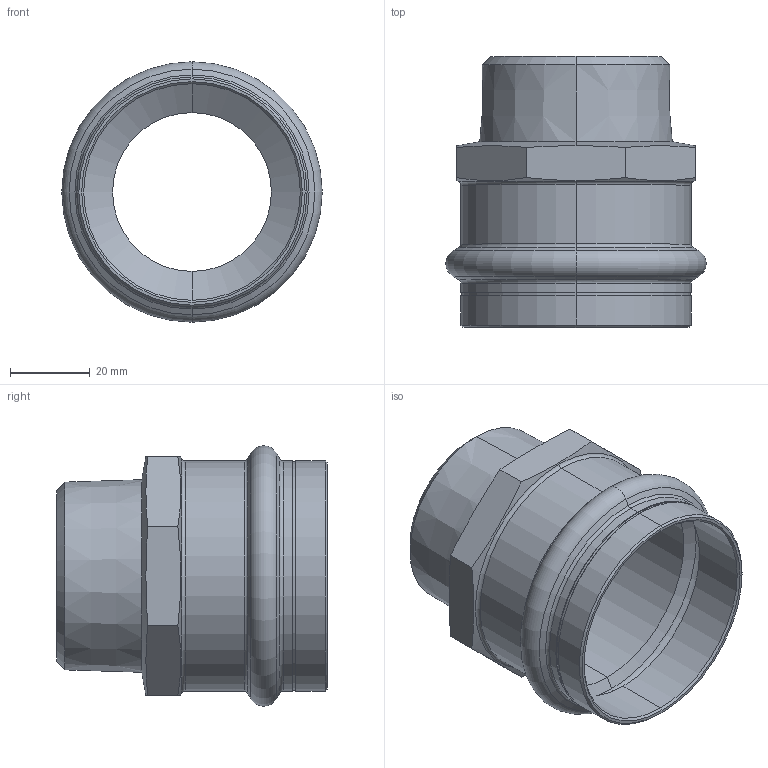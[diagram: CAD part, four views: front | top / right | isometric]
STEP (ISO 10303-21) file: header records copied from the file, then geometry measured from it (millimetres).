
FILE_DESCRIPTION (( 'STEP AP203' ), '1' );
FILE_NAME ('SP4243G Ø54 1 1-2.STEP', '2017-04-26T07:56:23', ( '' ), ( '' ), 'SwSTEP 2.0', 'SolidWorks 2016', '' );
FILE_SCHEMA (( 'CONFIG_CONTROL_DESIGN' ));
Length unit declared in the file: millimetre
Products named in the file (1): SP4243G Ø54 1 1-2
Bounding box: 65.4 x 68 x 65.4 mm (x, y, z)
Volume: 33328.1 mm3; surface area: 26432.8 mm2
Topology: 1 solids, 1 shells, 59 faces, 128 edges, 74 vertices
Faces by surface type: cone 22, cylinder 14, plane 13, torus 10
Entity records: 1751 total; most frequent: CARTESIAN_POINT 378, DIRECTION 292, ORIENTED_EDGE 256, EDGE_CURVE 128, AXIS2_PLACEMENT_3D 124, VERTEX_POINT 74, EDGE_LOOP 64, CIRCLE 64
